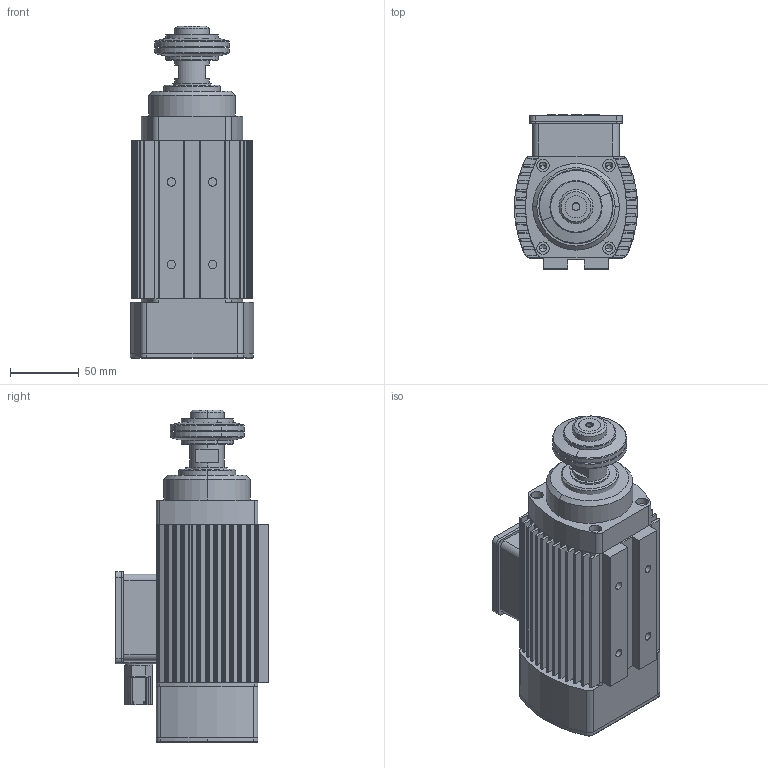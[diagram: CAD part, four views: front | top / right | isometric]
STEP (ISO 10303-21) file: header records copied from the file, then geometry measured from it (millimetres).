
FILE_DESCRIPTION (( 'STEP AP203' ), '1' );
FILE_NAME ('ARFM.2Y-S Flansli.STEP', '2022-04-04T11:25:03', ( '' ), ( '' ), 'SwSTEP 2.0', 'SolidWorks 2014', '' );
FILE_SCHEMA (( 'CONFIG_CONTROL_DESIGN' ));
Length unit declared in the file: millimetre
Products named in the file (15): 1Y Testere Flans; pg 9 týrnaklý; ARFM.2Y-S Flansli; arfm.2y arka kapak; 471-25 Sekman_98541A440; klemens kutusu; arfm.1y Caký Pulu; Klemens Kutusu; arfm.2y ön kapak tek bilyalý; arfm.2y rotor mili cap 16x19 mm; klemens kutusu kapaðý; M8x20 inpus havsa; arfm.2y-s gövde; arfm.2y rulman toz kapak; arfm.2y-m arka hava kapak
Assembly tree (14 placements, depth 3):
  ARFM.2Y-S Flansli
    arfm.2y-s gövde
    arfm.2y arka kapak
    arfm.2y ön kapak tek bilyalý
    arfm.2y-m arka hava kapak
    Klemens Kutusu
      klemens kutusu
      klemens kutusu kapaðý
      pg 9 týrnaklý
    arfm.2y rulman toz kapak
    471-25 Sekman_98541A440
    arfm.2y rotor mili cap 16x19 mm
    1Y Testere Flans
    arfm.1y Caký Pulu
    M8x20 inpus havsa
Bounding box: 89.6 x 112 x 241.5 mm (x, y, z)
Volume: 1245351.3 mm3; surface area: 201415.9 mm2
Topology: 13 solids, 13 shells, 905 faces, 2386 edges, 1535 vertices
Faces by surface type: cylinder 503, plane 327, cone 55, torus 13, bspline 7
Entity records: 31764 total; most frequent: CARTESIAN_POINT 7596, DIRECTION 4819, ORIENTED_EDGE 4736, EDGE_CURVE 2368, AXIS2_PLACEMENT_3D 1749, VERTEX_POINT 1535, LINE 1321, VECTOR 1321
